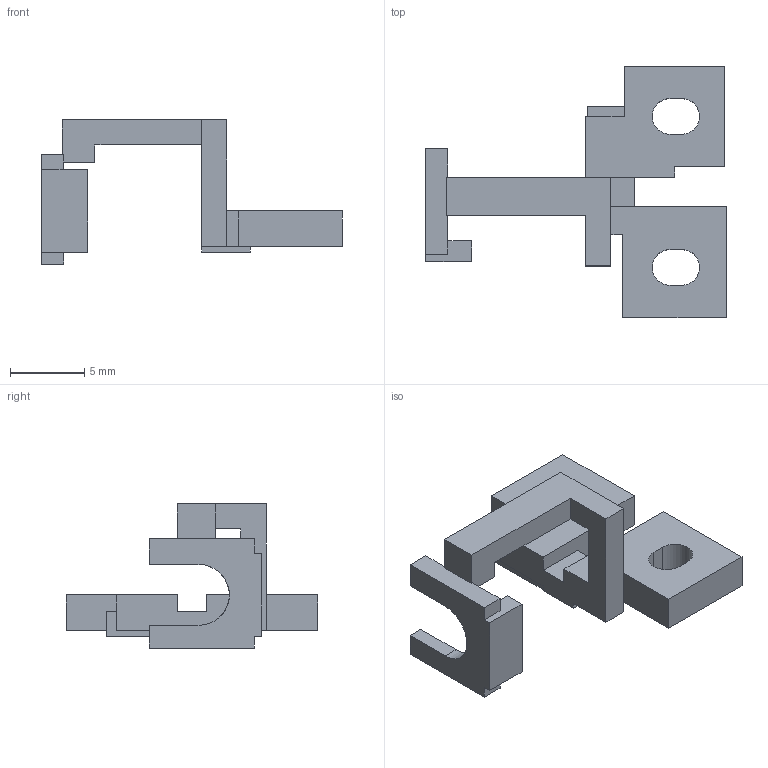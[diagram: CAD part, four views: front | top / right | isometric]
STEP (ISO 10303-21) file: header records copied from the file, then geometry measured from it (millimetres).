
FILE_DESCRIPTION(('Open CASCADE Model'),'2;1');
FILE_NAME('Open CASCADE Shape Model','2026-09-21T11:06:42',('Author'),( 'Open CASCADE'),'Open CASCADE STEP processor 7.7','Open CASCADE 7.7' ,'Unknown');
FILE_SCHEMA(('AUTOMOTIVE_DESIGN { 1 0 10303 214 1 1 1 1 }'));
Length unit declared in the file: millimetre
Products named in the file (1): Open CASCADE STEP translator 7.7 5
Bounding box: 20.3 x 17 x 9.75 mm (x, y, z)
Volume: 416.4 mm3; surface area: 770.7 mm2
Topology: 1 solids, 1 shells, 71 faces, 206 edges, 137 vertices
Faces by surface type: plane 64, cylinder 7
Entity records: 4926 total; most frequent: CARTESIAN_POINT 950, DIRECTION 680, LINE 493, VECTOR 493, ORIENTED_EDGE 412, PCURVE 412, DEFINITIONAL_REPRESENTATION 412, EDGE_CURVE 206
